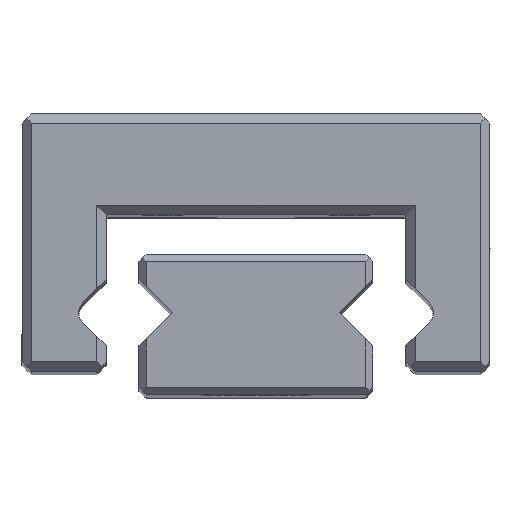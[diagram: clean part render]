
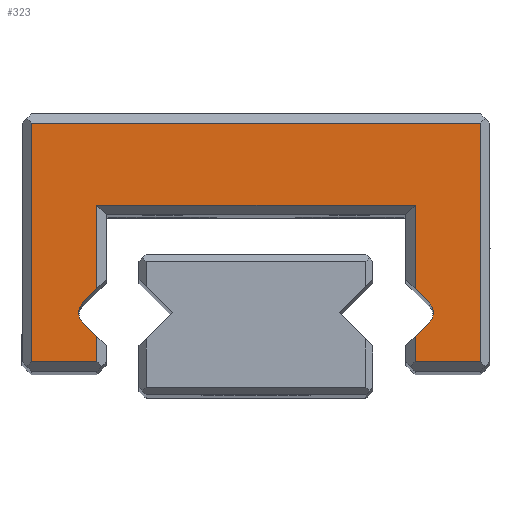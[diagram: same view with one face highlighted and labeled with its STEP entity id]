
A CAD part, top view. The second image highlights one B-rep face of the part: STEP entity #323.
In plain terms, the highlighted planar face has unit normal (0, 0, 1).
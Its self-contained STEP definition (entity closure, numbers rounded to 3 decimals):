
#323 = ADVANCED_FACE ( 'NONE', ( #11086 ), #11080, .T. ) ;
#848 = CARTESIAN_POINT ( 'NONE',  ( -3.4, 0.738, 22.5 ) ) ;
#1706 = CARTESIAN_POINT ( 'NONE',  ( -3.701, 1.463, 22.5 ) ) ;
#1738 = CARTESIAN_POINT ( 'NONE',  ( -3.79, 1.25, 22.5 ) ) ;
#1890 = AXIS2_PLACEMENT_3D ( 'NONE', #5846, #5847, #5848 ) ;
#1893 = CIRCLE ( 'NONE', #1890, 0.3 ) ;
#2229 = VERTEX_POINT ( 'NONE', #848 ) ;
#2262 = EDGE_LOOP ( 'NONE', ( #3414, #3409, #3410, #3417, #3434, #3433, #3432, #3437, #3436, #3435, #3430, #3431, #3438, #3603, #3824, #3607, #3810 ) ) ;
#2716 = AXIS2_PLACEMENT_3D ( 'NONE', #11082, #11088, #11089 ) ;
#3409 = ORIENTED_EDGE ( 'NONE', *, *, #10177, .T. ) ;
#3410 = ORIENTED_EDGE ( 'NONE', *, *, #10176, .T. ) ;
#3414 = ORIENTED_EDGE ( 'NONE', *, *, #10201, .T. ) ;
#3417 = ORIENTED_EDGE ( 'NONE', *, *, #10175, .T. ) ;
#3430 = ORIENTED_EDGE ( 'NONE', *, *, #7369, .T. ) ;
#3431 = ORIENTED_EDGE ( 'NONE', *, *, #10219, .T. ) ;
#3432 = ORIENTED_EDGE ( 'NONE', *, *, #10172, .T. ) ;
#3433 = ORIENTED_EDGE ( 'NONE', *, *, #10173, .T. ) ;
#3434 = ORIENTED_EDGE ( 'NONE', *, *, #10174, .T. ) ;
#3435 = ORIENTED_EDGE ( 'NONE', *, *, #10225, .T. ) ;
#3436 = ORIENTED_EDGE ( 'NONE', *, *, #10227, .T. ) ;
#3437 = ORIENTED_EDGE ( 'NONE', *, *, #10171, .T. ) ;
#3438 = ORIENTED_EDGE ( 'NONE', *, *, #10170, .T. ) ;
#3603 = ORIENTED_EDGE ( 'NONE', *, *, #10169, .T. ) ;
#3607 = ORIENTED_EDGE ( 'NONE', *, *, #10210, .T. ) ;
#3810 = ORIENTED_EDGE ( 'NONE', *, *, #10206, .T. ) ;
#3824 = ORIENTED_EDGE ( 'NONE', *, *, #10168, .T. ) ;
#3868 = LINE ( 'NONE', #3869, #5054 ) ;
#3869 = CARTESIAN_POINT ( 'NONE',  ( 3.2, 0.54, 22.5 ) ) ;
#3870 = DIRECTION ( 'NONE',  ( -0.71, -0.704, 0. ) ) ;
#3884 = CARTESIAN_POINT ( 'NONE',  ( 3.49, 1.25, 22.5 ) ) ;
#3885 = DIRECTION ( 'NONE',  ( 0., 0., -1. ) ) ;
#3886 = DIRECTION ( 'NONE',  ( -1., 0., 0. ) ) ;
#3888 = LINE ( 'NONE', #3896, #5063 ) ;
#3896 = CARTESIAN_POINT ( 'NONE',  ( 3.701, 1.463, 22.5 ) ) ;
#3897 = DIRECTION ( 'NONE',  ( 0.71, -0.704, 0. ) ) ;
#3920 = LINE ( 'NONE', #3921, #5074 ) ;
#3921 = CARTESIAN_POINT ( 'NONE',  ( -3.701, 1.463, 22.5 ) ) ;
#3922 = DIRECTION ( 'NONE',  ( 0.71, 0.704, 0. ) ) ;
#3941 = LINE ( 'NONE', #3947, #5080 ) ;
#3942 = CARTESIAN_POINT ( 'NONE',  ( -3.49, 1.25, 22.5 ) ) ;
#3943 = DIRECTION ( 'NONE',  ( 0., 0., -1. ) ) ;
#3944 = DIRECTION ( 'NONE',  ( 1., 0., 0. ) ) ;
#3947 = CARTESIAN_POINT ( 'NONE',  ( -3.2, 0.54, 22.5 ) ) ;
#3948 = DIRECTION ( 'NONE',  ( -0.71, 0.704, 0. ) ) ;
#4262 = LINE ( 'NONE', #4270, #5020 ) ;
#4270 = CARTESIAN_POINT ( 'NONE',  ( 3.4, 1.96, 22.5 ) ) ;
#4271 = DIRECTION ( 'NONE',  ( 0., -1., 0. ) ) ;
#4272 = LINE ( 'NONE', #4273, #5022 ) ;
#4273 = CARTESIAN_POINT ( 'NONE',  ( 3.2, 3.55, 22.5 ) ) ;
#4274 = DIRECTION ( 'NONE',  ( 1., 0., 0. ) ) ;
#4275 = LINE ( 'NONE', #4276, #5023 ) ;
#4276 = CARTESIAN_POINT ( 'NONE',  ( -3.4, 3.35, 22.5 ) ) ;
#4277 = DIRECTION ( 'NONE',  ( 0., 1., 0. ) ) ;
#4278 = LINE ( 'NONE', #4279, #5024 ) ;
#4279 = CARTESIAN_POINT ( 'NONE',  ( -3.4, 0.54, 22.5 ) ) ;
#4280 = DIRECTION ( 'NONE',  ( 0., 1., 0. ) ) ;
#4281 = LINE ( 'NONE', #4282, #5025 ) ;
#4282 = CARTESIAN_POINT ( 'NONE',  ( -3.4, 0.2, 22.5 ) ) ;
#4283 = DIRECTION ( 'NONE',  ( 1., 0., 0. ) ) ;
#4284 = LINE ( 'NONE', #4285, #5026 ) ;
#4285 = CARTESIAN_POINT ( 'NONE',  ( -4.8, 0.2, 22.5 ) ) ;
#4286 = DIRECTION ( 'NONE',  ( 0., -1., 0. ) ) ;
#4287 = LINE ( 'NONE', #4288, #5027 ) ;
#4288 = CARTESIAN_POINT ( 'NONE',  ( -4.8, 5.3, 22.5 ) ) ;
#4289 = DIRECTION ( 'NONE',  ( -1., 0., 0. ) ) ;
#4290 = LINE ( 'NONE', #4291, #5028 ) ;
#4291 = CARTESIAN_POINT ( 'NONE',  ( 4.8, 5.3, 22.5 ) ) ;
#4292 = DIRECTION ( 'NONE',  ( 0., 1., 0. ) ) ;
#4293 = LINE ( 'NONE', #4294, #5029 ) ;
#4294 = CARTESIAN_POINT ( 'NONE',  ( 4.8, 0.2, 22.5 ) ) ;
#4295 = DIRECTION ( 'NONE',  ( 1., 0., 0. ) ) ;
#4296 = LINE ( 'NONE', #4297, #5030 ) ;
#4297 = CARTESIAN_POINT ( 'NONE',  ( 3.4, 0.2, 22.5 ) ) ;
#4298 = DIRECTION ( 'NONE',  ( 0., -1., 0. ) ) ;
#5020 = VECTOR ( 'NONE', #4271, 1000. ) ;
#5022 = VECTOR ( 'NONE', #4274, 1000. ) ;
#5023 = VECTOR ( 'NONE', #4277, 1000. ) ;
#5024 = VECTOR ( 'NONE', #4280, 1000. ) ;
#5025 = VECTOR ( 'NONE', #4283, 1000. ) ;
#5026 = VECTOR ( 'NONE', #4286, 1000. ) ;
#5027 = VECTOR ( 'NONE', #4289, 1000. ) ;
#5028 = VECTOR ( 'NONE', #4292, 1000. ) ;
#5029 = VECTOR ( 'NONE', #4295, 1000. ) ;
#5030 = VECTOR ( 'NONE', #4298, 1000. ) ;
#5054 = VECTOR ( 'NONE', #3870, 1000. ) ;
#5059 = CIRCLE ( 'NONE', #5061, 0.3 ) ;
#5061 = AXIS2_PLACEMENT_3D ( 'NONE', #3884, #3885, #3886 ) ;
#5063 = VECTOR ( 'NONE', #3897, 1000. ) ;
#5073 = CIRCLE ( 'NONE', #5083, 0.3 ) ;
#5074 = VECTOR ( 'NONE', #3922, 1000. ) ;
#5080 = VECTOR ( 'NONE', #3948, 1000. ) ;
#5083 = AXIS2_PLACEMENT_3D ( 'NONE', #3942, #3943, #3944 ) ;
#5846 = CARTESIAN_POINT ( 'NONE',  ( -3.49, 1.25, 22.5 ) ) ;
#5847 = DIRECTION ( 'NONE',  ( 0., 0., -1. ) ) ;
#5848 = DIRECTION ( 'NONE',  ( 1., 0., 0. ) ) ;
#7369 = EDGE_CURVE ( 'NONE', #8712, #8677, #1893, .T. ) ;
#8677 = VERTEX_POINT ( 'NONE', #1706 ) ;
#8712 = VERTEX_POINT ( 'NONE', #1738 ) ;
#10168 = EDGE_CURVE ( 'NONE', #10781, #11847, #4262, .T. ) ;
#10169 = EDGE_CURVE ( 'NONE', #10816, #10781, #4272, .T. ) ;
#10170 = EDGE_CURVE ( 'NONE', #11822, #10816, #4275, .T. ) ;
#10171 = EDGE_CURVE ( 'NONE', #11877, #2229, #4278, .T. ) ;
#10172 = EDGE_CURVE ( 'NONE', #11821, #11877, #4281, .T. ) ;
#10173 = EDGE_CURVE ( 'NONE', #11873, #11821, #4284, .T. ) ;
#10174 = EDGE_CURVE ( 'NONE', #11869, #11873, #4287, .T. ) ;
#10175 = EDGE_CURVE ( 'NONE', #11824, #11869, #4290, .T. ) ;
#10176 = EDGE_CURVE ( 'NONE', #11827, #11824, #4293, .T. ) ;
#10177 = EDGE_CURVE ( 'NONE', #11831, #11827, #4296, .T. ) ;
#10201 = EDGE_CURVE ( 'NONE', #10783, #11831, #3868, .T. ) ;
#10206 = EDGE_CURVE ( 'NONE', #11855, #10783, #5059, .T. ) ;
#10210 = EDGE_CURVE ( 'NONE', #11847, #11855, #3888, .T. ) ;
#10219 = EDGE_CURVE ( 'NONE', #8677, #11822, #3920, .T. ) ;
#10225 = EDGE_CURVE ( 'NONE', #10802, #8712, #5073, .T. ) ;
#10227 = EDGE_CURVE ( 'NONE', #2229, #10802, #3941, .T. ) ;
#10781 = VERTEX_POINT ( 'NONE', #12323 ) ;
#10783 = VERTEX_POINT ( 'NONE', #12325 ) ;
#10802 = VERTEX_POINT ( 'NONE', #12344 ) ;
#10816 = VERTEX_POINT ( 'NONE', #12358 ) ;
#11080 = PLANE ( 'NONE',  #2716 ) ;
#11082 = CARTESIAN_POINT ( 'NONE',  ( -3.49, 1.25, 22.5 ) ) ;
#11086 = FACE_OUTER_BOUND ( 'NONE', #2262, .T. ) ;
#11088 = DIRECTION ( 'NONE',  ( 0., 0., 1. ) ) ;
#11089 = DIRECTION ( 'NONE',  ( 1., 0., 0. ) ) ;
#11821 = VERTEX_POINT ( 'NONE', #12394 ) ;
#11822 = VERTEX_POINT ( 'NONE', #12400 ) ;
#11824 = VERTEX_POINT ( 'NONE', #12401 ) ;
#11827 = VERTEX_POINT ( 'NONE', #12403 ) ;
#11831 = VERTEX_POINT ( 'NONE', #12407 ) ;
#11847 = VERTEX_POINT ( 'NONE', #12423 ) ;
#11855 = VERTEX_POINT ( 'NONE', #12431 ) ;
#11869 = VERTEX_POINT ( 'NONE', #12445 ) ;
#11873 = VERTEX_POINT ( 'NONE', #12449 ) ;
#11877 = VERTEX_POINT ( 'NONE', #12453 ) ;
#12323 = CARTESIAN_POINT ( 'NONE',  ( 3.4, 3.55, 22.5 ) ) ;
#12325 = CARTESIAN_POINT ( 'NONE',  ( 3.701, 1.037, 22.5 ) ) ;
#12344 = CARTESIAN_POINT ( 'NONE',  ( -3.701, 1.037, 22.5 ) ) ;
#12358 = CARTESIAN_POINT ( 'NONE',  ( -3.4, 3.55, 22.5 ) ) ;
#12394 = CARTESIAN_POINT ( 'NONE',  ( -4.8, 0.2, 22.5 ) ) ;
#12400 = CARTESIAN_POINT ( 'NONE',  ( -3.4, 1.762, 22.5 ) ) ;
#12401 = CARTESIAN_POINT ( 'NONE',  ( 4.8, 0.2, 22.5 ) ) ;
#12403 = CARTESIAN_POINT ( 'NONE',  ( 3.4, 0.2, 22.5 ) ) ;
#12407 = CARTESIAN_POINT ( 'NONE',  ( 3.4, 0.738, 22.5 ) ) ;
#12423 = CARTESIAN_POINT ( 'NONE',  ( 3.4, 1.762, 22.5 ) ) ;
#12431 = CARTESIAN_POINT ( 'NONE',  ( 3.701, 1.463, 22.5 ) ) ;
#12445 = CARTESIAN_POINT ( 'NONE',  ( 4.8, 5.3, 22.5 ) ) ;
#12449 = CARTESIAN_POINT ( 'NONE',  ( -4.8, 5.3, 22.5 ) ) ;
#12453 = CARTESIAN_POINT ( 'NONE',  ( -3.4, 0.2, 22.5 ) ) ;
